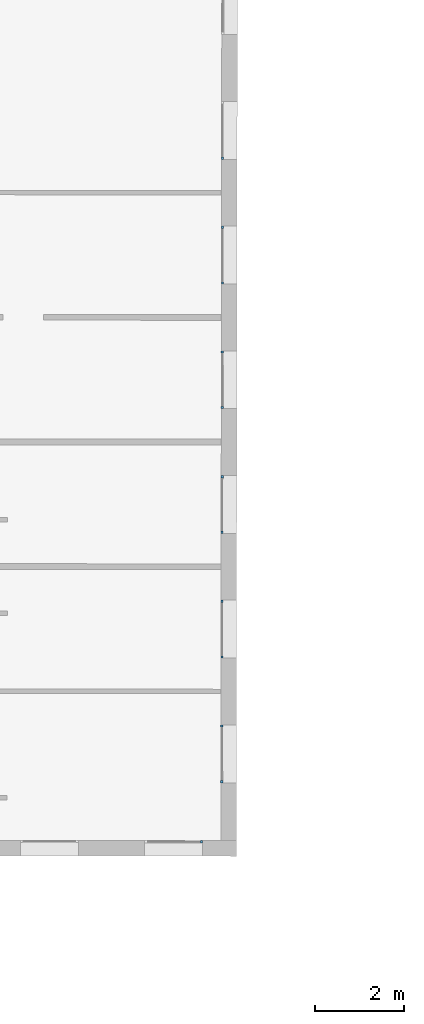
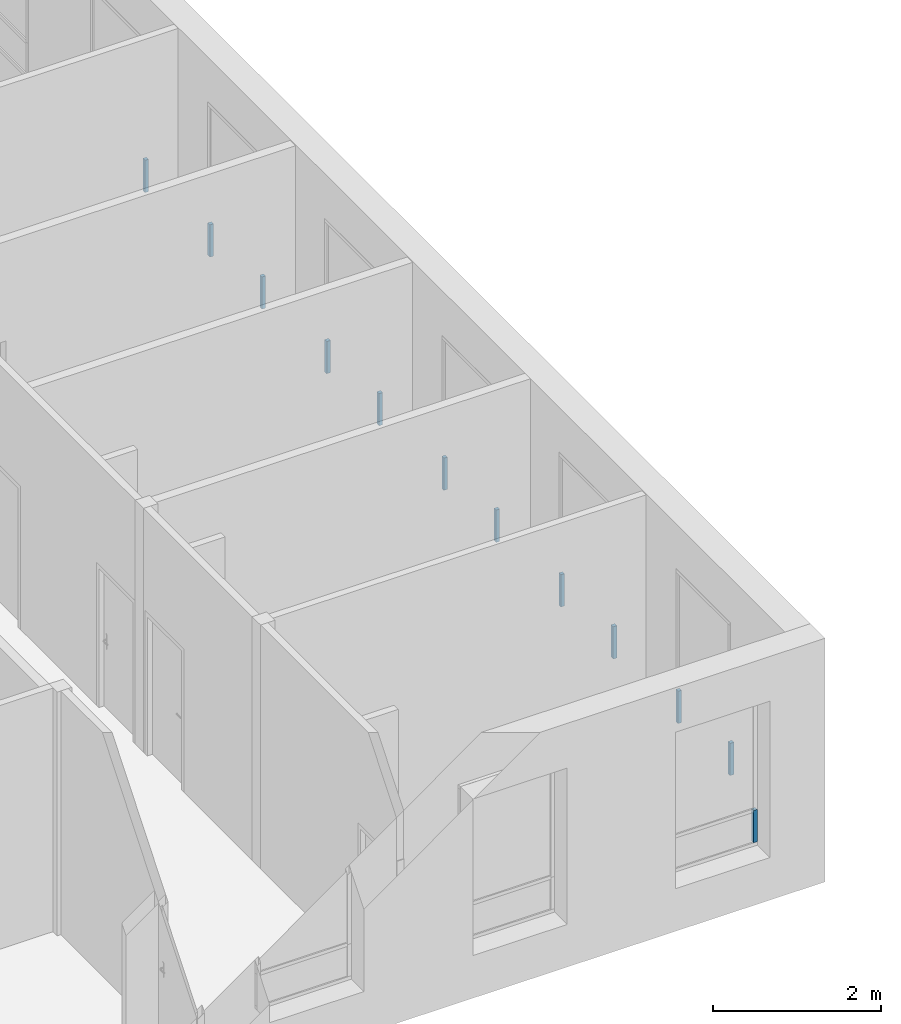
# One storey, part 29 of 101: 12 members, 7 elements without a shape of their own.
"""IFC2X3 building model written with IfcOpenShell, lengths in metres."""

from ifc_helpers import new_model, entity, si_unit, converted_unit, derived_unit, direction, frame, origin, origin_2d_with_axis, place, context, subcontext, project, spatial, rectangle, extrude, source, transform, mapped, material, type_object, type_shapes, element, aggregate, save


model = new_model("IFC2X3")

# Units and contexts
model_context = context("Model", 3, precision=1e-05, world=origin(), true_north=direction((6.123233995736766e-17, 1.0)))
body_context = subcontext(model_context, "Body", "Model", "MODEL_VIEW")
ifc_project = project(units=[si_unit("LENGTHUNIT", "METRE"), si_unit("AREAUNIT", "SQUARE_METRE"), converted_unit("PLANEANGLEUNIT", "DEGREE", entity("IfcPlaneAngleMeasure", 0.017453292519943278), si_unit("PLANEANGLEUNIT", "RADIAN"), dimensions=[0, 0, 0, 0, 0, 0, 0]), derived_unit("THERMALTRANSMITTANCEUNIT", [(si_unit("MASSUNIT", "GRAM", prefix="KILO"), 1), (si_unit("THERMODYNAMICTEMPERATUREUNIT", "KELVIN"), -1), (si_unit("TIMEUNIT", "SECOND"), -3)])], contexts=[model_context])

# Site, building, storey
site_placement = place(None, frame((1253.6752467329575, 2072.143113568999, 91.49999999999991), z_axis=(0.0, 0.0, 1.0), x_axis=(0.7237211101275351, 0.6900925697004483, 0.0)))
site = spatial("IfcSite", under=ifc_project, at=site_placement, Name="Surface", CompositionType="ELEMENT")
building_placement = place(site_placement, origin())
building = spatial("IfcBuilding", under=site, at=building_placement, CompositionType="ELEMENT")
storey_placement = place(building_placement, origin())
storey = spatial("IfcBuildingStorey", under=building, at=storey_placement, Name="0- Rdc", CompositionType="ELEMENT", Elevation=-5.764692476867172e-13)

# Curtain wall, member
curtain_wall_type = type_object("IfcCurtainWallType", Name="Mur-rideau:Menuiserie Ext 1F+1OB VERTIC", PredefinedType="NOTDEFINED")
curtain_wall_1_placement = place(storey_placement, origin())
curtain_wall_1 = element("IfcCurtainWall", 1, at=curtain_wall_1_placement, inside=storey, type_object=curtain_wall_type, Name="Mur-rideau:Menuiserie Ext 1F+1OB VERTIC", ObjectType="Mur-rideau:Menuiserie Ext 1F+1OB VERTIC")
ifc_material = material(Name="OMD_Aluminium Men Ext")
member_type_1 = type_object("IfcMemberType", Name="Meneau rectangulaire:50x50", PredefinedType="MULLION", material=ifc_material)
shared_shape_1 = source(origin(), body_context, "Body", "SweptSolid", [
    extrude(rectangle(XDim=0.05, YDim=0.049999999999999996, at=origin_2d_with_axis()), frame((-0.025, 0.0, -0.4699999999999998), z_axis=(0.0, 0.0, 1.0), x_axis=(-1.0, 0.0, 0.0)), (0.0, 0.0, 1.0), 0.4699999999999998),
])
type_shapes(member_type_1, [shared_shape_1])
member_1_placement = place(curtain_wall_1_placement, frame((188.84198091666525, -19.273710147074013, 0.6699999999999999), z_axis=(0.0, 0.0, -1.0), x_axis=(0.6909838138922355, 0.7228702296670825, 0.0)))
member_1 = element("IfcMember", 2, at=member_1_placement, type_object=member_type_1, material=ifc_material, Name="Meneau rectangulaire:50x50", ObjectType="Meneau rectangulaire:50x50", context=body_context, shape_type="MappedRepresentation", body=[
    mapped(shared_shape_1, transform((0.0, 0.0, 0.0), scale=1.0)),
])

curtain_wall_2_placement = place(storey_placement, origin())
curtain_wall_2 = element("IfcCurtainWall", 3, at=curtain_wall_2_placement, inside=storey, type_object=curtain_wall_type, Name="Mur-rideau:Menuiserie Ext 1F+1OB VERTIC", ObjectType="Mur-rideau:Menuiserie Ext 1F+1OB VERTIC")
member_2_placement = place(curtain_wall_2_placement, frame((186.90722623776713, -21.29774679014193, 0.6699999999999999), z_axis=(0.0, 0.0, -1.0), x_axis=(0.6909838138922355, 0.7228702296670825, 0.0)))
member_2 = element("IfcMember", 4, at=member_2_placement, type_object=member_type_1, material=ifc_material, Name="Meneau rectangulaire:50x50", ObjectType="Meneau rectangulaire:50x50", context=body_context, shape_type="MappedRepresentation", body=[
    mapped(shared_shape_1, transform((0.0, 0.0, 0.0), scale=1.0)),
])

curtain_wall_3_placement = place(storey_placement, origin())
curtain_wall_3 = element("IfcCurtainWall", 5, at=curtain_wall_3_placement, inside=storey, type_object=curtain_wall_type, Name="Mur-rideau:Menuiserie Ext 1F+1OB VERTIC", ObjectType="Mur-rideau:Menuiserie Ext 1F+1OB VERTIC")
member_3_placement = place(curtain_wall_3_placement, frame((184.9724715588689, -23.32178343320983, 0.6699999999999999), z_axis=(0.0, 0.0, -1.0), x_axis=(0.6909838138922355, 0.7228702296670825, 0.0)))
member_3 = element("IfcMember", 6, at=member_3_placement, type_object=member_type_1, material=ifc_material, Name="Meneau rectangulaire:50x50", ObjectType="Meneau rectangulaire:50x50", context=body_context, shape_type="MappedRepresentation", body=[
    mapped(shared_shape_1, transform((0.0, 0.0, 0.0), scale=1.0)),
])

curtain_wall_4_placement = place(storey_placement, origin())
curtain_wall_4 = element("IfcCurtainWall", 7, at=curtain_wall_4_placement, inside=storey, type_object=curtain_wall_type, Name="Mur-rideau:Menuiserie Ext 1F+1OB VERTIC", ObjectType="Mur-rideau:Menuiserie Ext 1F+1OB VERTIC")
member_4_placement = place(curtain_wall_4_placement, frame((183.03771687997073, -25.34582007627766, 0.6699999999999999), z_axis=(0.0, 0.0, -1.0), x_axis=(0.6909838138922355, 0.7228702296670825, 0.0)))
member_4 = element("IfcMember", 8, at=member_4_placement, type_object=member_type_1, material=ifc_material, Name="Meneau rectangulaire:50x50", ObjectType="Meneau rectangulaire:50x50", context=body_context, shape_type="MappedRepresentation", body=[
    mapped(shared_shape_1, transform((0.0, 0.0, 0.0), scale=1.0)),
])

curtain_wall_5_placement = place(storey_placement, origin())
curtain_wall_5 = element("IfcCurtainWall", 9, at=curtain_wall_5_placement, inside=storey, type_object=curtain_wall_type, Name="Mur-rideau:Menuiserie Ext 1F+1OB VERTIC", ObjectType="Mur-rideau:Menuiserie Ext 1F+1OB VERTIC")
member_5_placement = place(curtain_wall_5_placement, frame((181.1029622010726, -27.36985671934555, 0.6699999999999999), z_axis=(0.0, 0.0, -1.0), x_axis=(0.6909838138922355, 0.7228702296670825, 0.0)))
member_5 = element("IfcMember", 10, at=member_5_placement, type_object=member_type_1, material=ifc_material, Name="Meneau rectangulaire:50x50", ObjectType="Meneau rectangulaire:50x50", context=body_context, shape_type="MappedRepresentation", body=[
    mapped(shared_shape_1, transform((0.0, 0.0, 0.0), scale=1.0)),
])

curtain_wall_6_placement = place(storey_placement, origin())
curtain_wall_6 = element("IfcCurtainWall", 11, at=curtain_wall_6_placement, inside=storey, type_object=curtain_wall_type, Name="Mur-rideau:Menuiserie Ext 1F+1OB VERTIC", ObjectType="Mur-rideau:Menuiserie Ext 1F+1OB VERTIC")
member_type_2 = type_object("IfcMemberType", Name="Meneau rectangulaire:50x50", PredefinedType="MULLION", material=ifc_material)
shared_shape_2 = source(origin(), body_context, "Body", "SweptSolid", [
    extrude(rectangle(XDim=0.05, YDim=0.049999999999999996, at=origin_2d_with_axis()), frame((-0.025, 0.0, -0.4699999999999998), z_axis=(0.0, 0.0, 1.0), x_axis=(-1.0, 0.0, 0.0)), (0.0, 0.0, 1.0), 0.4699999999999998),
])
type_shapes(member_type_2, [shared_shape_2])
member_6_placement = place(curtain_wall_6_placement, frame((189.87866676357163, -18.189184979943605, 1.14), z_axis=(0.0, 0.0, 1.0), x_axis=(-0.6909838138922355, -0.7228702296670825, 0.0)))
member_6 = element("IfcMember", 12, at=member_6_placement, type_object=member_type_2, material=ifc_material, Name="Meneau rectangulaire:50x50", ObjectType="Meneau rectangulaire:50x50", context=body_context, shape_type="MappedRepresentation", body=[
    mapped(shared_shape_2, transform((0.0, 0.0, 0.0), scale=1.0)),
])
aggregate(curtain_wall_6, [member_6])

# Member
member_7_placement = place(curtain_wall_1_placement, frame((187.9439120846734, -20.213221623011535, 1.14), z_axis=(0.0, 0.0, 1.0), x_axis=(-0.6909838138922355, -0.7228702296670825, 0.0)))
member_7 = element("IfcMember", 13, at=member_7_placement, type_object=member_type_2, material=ifc_material, Name="Meneau rectangulaire:50x50", ObjectType="Meneau rectangulaire:50x50", context=body_context, shape_type="MappedRepresentation", body=[
    mapped(shared_shape_2, transform((0.0, 0.0, 0.0), scale=1.0)),
])

aggregate(curtain_wall_1, [member_1, member_7])

member_8_placement = place(curtain_wall_2_placement, frame((186.00915740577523, -22.237258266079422, 1.14), z_axis=(0.0, 0.0, 1.0), x_axis=(-0.6909838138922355, -0.7228702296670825, 0.0)))
member_8 = element("IfcMember", 14, at=member_8_placement, type_object=member_type_2, material=ifc_material, Name="Meneau rectangulaire:50x50", ObjectType="Meneau rectangulaire:50x50", context=body_context, shape_type="MappedRepresentation", body=[
    mapped(shared_shape_2, transform((0.0, 0.0, 0.0), scale=1.0)),
])

aggregate(curtain_wall_2, [member_2, member_8])

member_9_placement = place(curtain_wall_3_placement, frame((184.074402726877, -24.26129490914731, 1.14), z_axis=(0.0, 0.0, 1.0), x_axis=(-0.6909838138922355, -0.7228702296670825, 0.0)))
member_9 = element("IfcMember", 15, at=member_9_placement, type_object=member_type_2, material=ifc_material, Name="Meneau rectangulaire:50x50", ObjectType="Meneau rectangulaire:50x50", context=body_context, shape_type="MappedRepresentation", body=[
    mapped(shared_shape_2, transform((0.0, 0.0, 0.0), scale=1.0)),
])

aggregate(curtain_wall_3, [member_3, member_9])

member_10_placement = place(curtain_wall_4_placement, frame((182.13964804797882, -26.28533155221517, 1.14), z_axis=(0.0, 0.0, 1.0), x_axis=(-0.6909838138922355, -0.7228702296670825, 0.0)))
member_10 = element("IfcMember", 16, at=member_10_placement, type_object=member_type_2, material=ifc_material, Name="Meneau rectangulaire:50x50", ObjectType="Meneau rectangulaire:50x50", context=body_context, shape_type="MappedRepresentation", body=[
    mapped(shared_shape_2, transform((0.0, 0.0, 0.0), scale=1.0)),
])

aggregate(curtain_wall_4, [member_4, member_10])

member_11_placement = place(curtain_wall_5_placement, frame((180.2048933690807, -28.309368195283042, 1.14), z_axis=(0.0, 0.0, 1.0), x_axis=(-0.6909838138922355, -0.7228702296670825, 0.0)))
member_11 = element("IfcMember", 17, at=member_11_placement, type_object=member_type_2, material=ifc_material, Name="Meneau rectangulaire:50x50", ObjectType="Meneau rectangulaire:50x50", context=body_context, shape_type="MappedRepresentation", body=[
    mapped(shared_shape_2, transform((0.0, 0.0, 0.0), scale=1.0)),
])

aggregate(curtain_wall_5, [member_5, member_11])

# Curtain wall, member
curtain_wall_7_placement = place(storey_placement, origin())
curtain_wall_7 = element("IfcCurtainWall", 18, at=curtain_wall_7_placement, inside=storey, type_object=curtain_wall_type, Name="Mur-rideau:Menuiserie Ext 1F+1OB VERTIC", ObjectType="Mur-rideau:Menuiserie Ext 1F+1OB VERTIC")
member_12_placement = place(curtain_wall_7_placement, frame((178.97891988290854, -28.970864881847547, 1.14), z_axis=(0.0, 0.0, 1.0), x_axis=(0.7228702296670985, -0.6909838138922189, 0.0)))
member_12 = element("IfcMember", 19, at=member_12_placement, type_object=member_type_2, material=ifc_material, Name="Meneau rectangulaire:50x50", ObjectType="Meneau rectangulaire:50x50", context=body_context, shape_type="MappedRepresentation", body=[
    mapped(shared_shape_2, transform((0.0, 0.0, 0.0), scale=1.0)),
])
aggregate(curtain_wall_7, [member_12])

save(model, "model.ifc")
